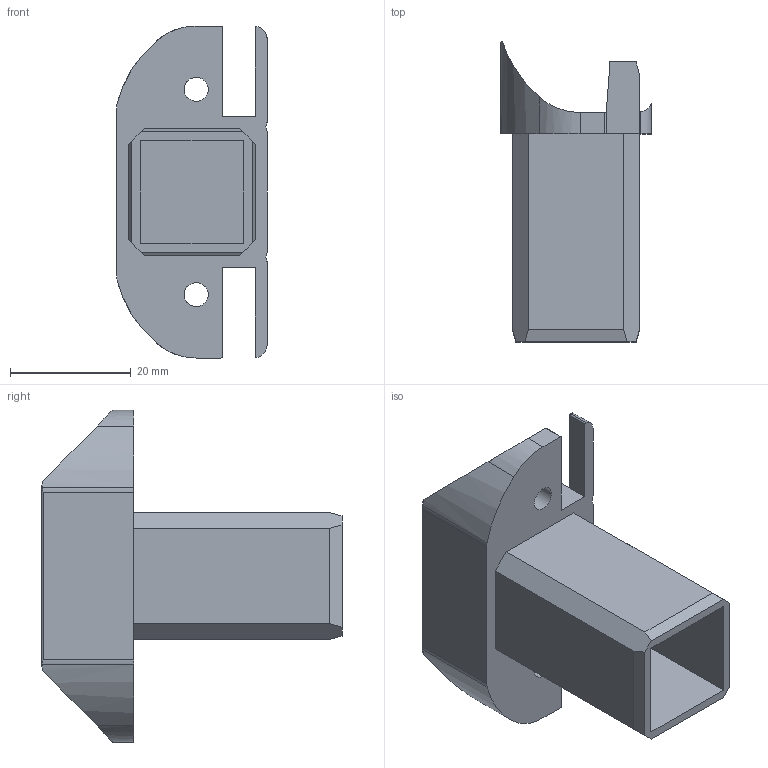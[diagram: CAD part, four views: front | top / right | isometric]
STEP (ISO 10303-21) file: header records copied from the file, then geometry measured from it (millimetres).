
FILE_DESCRIPTION (( 'STEP AP214' ), '1' );
FILE_NAME ('L15841.step', '2024-12-03T16:19:48', ( '' ), ( '' ), 'SwSTEP 2.0', 'SolidWorks 2023', '' );
FILE_SCHEMA (( 'AUTOMOTIVE_DESIGN' ));
Length unit declared in the file: millimetre
Products named in the file (1): L15841
Bounding box: 25 x 49.7 x 55 mm (x, y, z)
Volume: 11593.3 mm3; surface area: 9338 mm2
Topology: 1 solids, 1 shells, 60 faces, 170 edges, 112 vertices
Faces by surface type: plane 38, cylinder 22
Full cylindrical faces by diameter (mm): 4 x2
Entity records: 2081 total; most frequent: CARTESIAN_POINT 529, ORIENTED_EDGE 332, DIRECTION 292, EDGE_CURVE 166, LINE 122, VECTOR 122, VERTEX_POINT 110, AXIS2_PLACEMENT_3D 85
